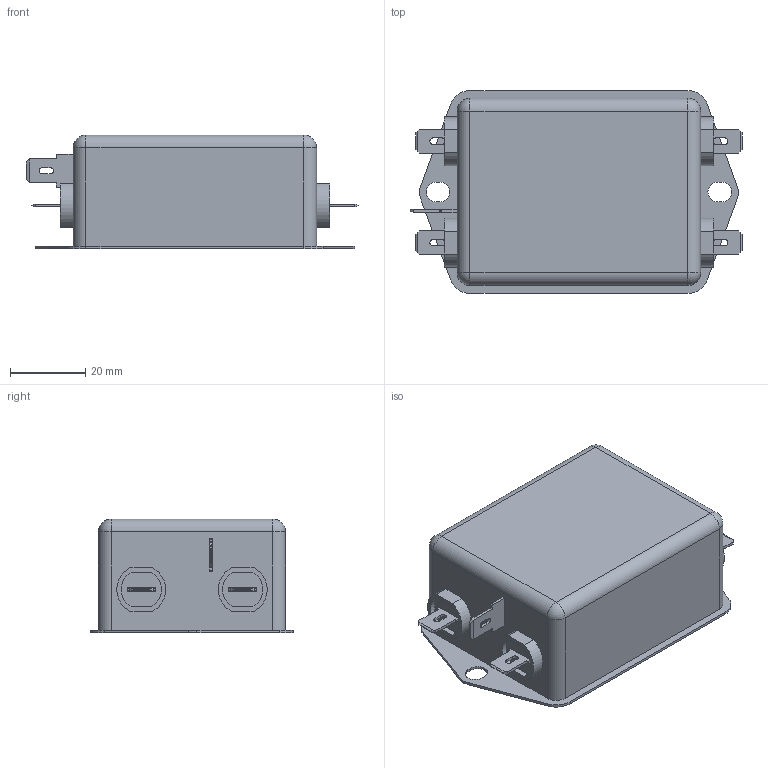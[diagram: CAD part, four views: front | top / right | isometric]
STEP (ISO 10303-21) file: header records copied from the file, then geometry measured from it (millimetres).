
FILE_DESCRIPTION((''),'2;1');
FILE_NAME('L:\INVENTOR_Projektedaten\HousingDesign\FN2060-12-06.stp','2012-10-05T14:43:34',('Samuel.Meier'),(''),'Autodesk Inventor 2010','Autodesk Inventor 2010','');
FILE_SCHEMA(('AUTOMOTIVE_DESIGN { 1 2 10303 214 0 1 1 1 }'));
Length unit declared in the file: millimetre
Products named in the file (1): Bauteil11
Bounding box: 88.35 x 54 x 30.3 mm (x, y, z)
Volume: 98991.7 mm3; surface area: 16366.4 mm2
Topology: 5 solids, 5 shells, 352 faces, 956 edges, 624 vertices
Faces by surface type: plane 193, cylinder 105, bspline 50, sphere 4
Entity records: 12197 total; most frequent: CARTESIAN_POINT 2945, ORIENTED_EDGE 1904, DIRECTION 1718, EDGE_CURVE 952, VECTOR 664, LINE 664, VERTEX_POINT 624, AXIS2_PLACEMENT_3D 527
